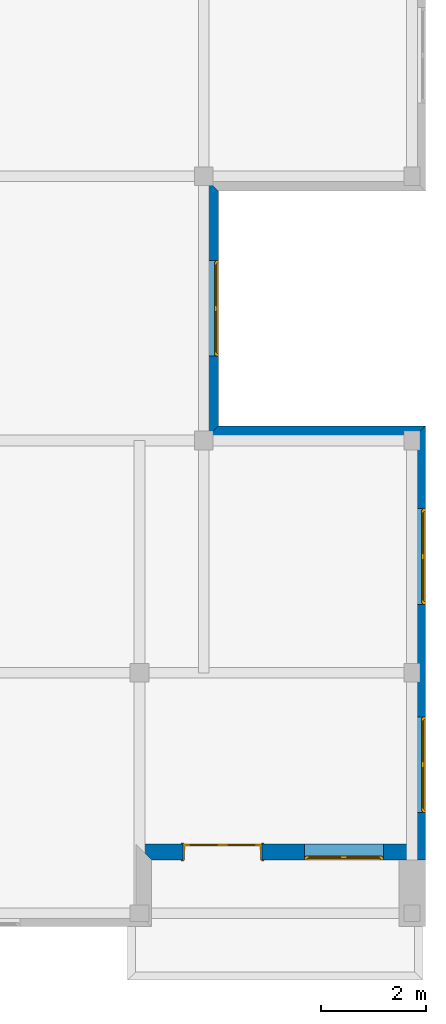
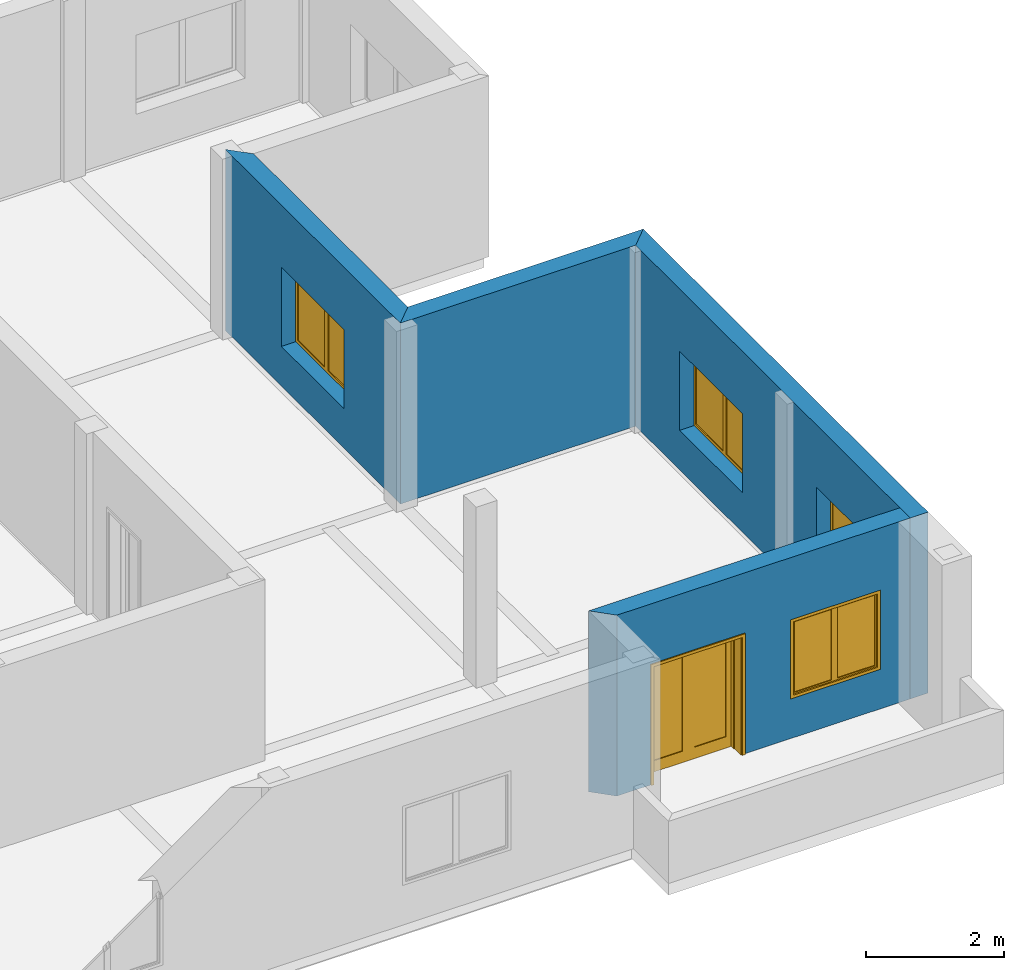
# One storey, part 5 of 6: 4 walls, 4 windows, 1 door, 5 openings.
"""IFC2X3 building model written with IfcOpenShell, lengths in millimetres."""

from ifc_helpers import new_model, entity, si_unit, converted_unit, direction, frame, origin_with_axes, origin_2d_with_axis, place, context, subcontext, project, spatial, polyline, rectangle, outline, extrude, faceted_brep, source, transform, mapped, material, layer, layer_set, layer_usage, type_object, element, fill, save


model = new_model("IFC2X3")

# Units and contexts
model_context = context("Model", 3, precision=1e-05, world=origin_with_axes(), true_north=direction((0.0, 1.0)))
body_context = subcontext(model_context, "Body", "Model", "MODEL_VIEW")
ifc_project = project(units=[si_unit("LENGTHUNIT", "METRE", prefix="MILLI"), si_unit("AREAUNIT", "SQUARE_METRE"), si_unit("VOLUMEUNIT", "CUBIC_METRE"), converted_unit("PLANEANGLEUNIT", "DEGREE", entity("IfcPlaneAngleMeasure", 0.017453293), si_unit("PLANEANGLEUNIT", "RADIAN"), dimensions=[0, 0, 0, 0, 0, 0, 0]), si_unit("SOLIDANGLEUNIT", "STERADIAN"), si_unit("MASSUNIT", "GRAM"), si_unit("TIMEUNIT", "SECOND"), si_unit("THERMODYNAMICTEMPERATUREUNIT", "DEGREE_CELSIUS"), si_unit("LUMINOUSINTENSITYUNIT", "LUMEN")], contexts=[model_context])

# Site, building, storey
site_placement = place(None, origin_with_axes())
site = spatial("IfcSite", under=ifc_project, at=site_placement, Name="Sitio", CompositionType="ELEMENT")
building_placement = place(site_placement, origin_with_axes())
building = spatial("IfcBuilding", under=site, at=building_placement, Name="Ejemplo_StruBIM", CompositionType="ELEMENT")
storey_placement = place(building_placement, frame((0.0, 0.0, 6400.8), z_axis=(0.0, 0.0, 1.0), x_axis=(1.0, 0.0, 0.0)))
storey = spatial("IfcBuildingStorey", under=building, at=storey_placement, Name="Second floor", CompositionType="ELEMENT", Elevation=6400.8)

# Wall
ifc_material_1 = material(Name="Bloque mampostería")
ifc_layer = layer(ifc_material_1, 300.0, ventilated="UNKNOWN")
ifc_layer_set = layer_set([ifc_layer], Name="Bloque mampostería 300")
ifc_layer_usage_1 = layer_usage(ifc_layer_set, "AXIS2", "POSITIVE", 0.0)
wall_type = type_object("IfcWallType", Name="Bloque mampostería 11 3/4\"", PredefinedType="NOTDEFINED")
wall_1_placement = place(storey_placement, frame((22809.2, 9271.0, 0.0), z_axis=(0.0, 0.0, 1.0), x_axis=(-1.0, 0.0, 0.0)))
element("IfcWallStandardCase", 1, at=wall_1_placement, inside=storey, type_object=wall_type, material=ifc_layer_usage_1, Name="Muro-012", context=body_context, shape_type="SweptSolid", body=[
    extrude(outline(polyline([(0.0, 0.0), (3937.0, 0.0), (4237.0, 300.0), (300.0, 300.0), (0.0, 0.0)])), origin_with_axes(), (0.0, 0.0, 1.0), 3200.4),
])

# Wall, opening, window
ifc_layer_usage_2 = layer_usage(ifc_layer_set, "AXIS2", "POSITIVE", 0.0)
wall_2_placement = place(storey_placement, frame((18872.2, 9271.0, 0.0), z_axis=(0.0, 0.0, 1.0), x_axis=(0.0, 1.0, 0.0)))
wall_2 = element("IfcWallStandardCase", 2, at=wall_2_placement, inside=storey, type_object=wall_type, material=ifc_layer_usage_2, Name="Muro-013", context=body_context, shape_type="SweptSolid", body=[
    extrude(outline(polyline([(0.0, 0.0), (4470.4, 0.0), (4770.4, 300.0), (-300.0, 300.0), (0.0, 0.0)])), origin_with_axes(), (0.0, 0.0, 1.0), 3200.4),
])
opening_1_placement = place(wall_2_placement, frame((2235.2, 0.0, 700.0), z_axis=(0.0, 0.0, 1.0), x_axis=(1.0, 0.0, 0.0)))
opening_1 = element("IfcOpeningElement", 3, at=opening_1_placement, cuts=wall_2, Name="V18", context=body_context, shape_type="SweptSolid", body=[
    extrude(rectangle(XDim=1820.0, YDim=1400.0, at=origin_2d_with_axis()), frame((0.0, 300.0, 700.0), z_axis=(0.0, -1.0, 0.0), x_axis=(1.0, 0.0, 0.0)), (0.0, 0.0, 1.0), 300.0),
])
ifc_material_2 = material(Name="Fondo")
window_style = type_object("IfcWindowStyle", Name="Ventana Doble Hoja 16", ConstructionType="NOTDEFINED", OperationType="DOUBLE_PANEL_HORIZONTAL", ParameterTakesPrecedence=False, Sizeable=False)
shared_shape_1 = source(origin_with_axes(), body_context, "Body", "Brep", [
    faceted_brep([(-885.0, -50.0, 1350.0), (-885.0, -25.0, 1350.0), (-860.0, -25.0, 1350.0), (-860.0, 0.0, 1350.0), (-910.0, 0.0, 1350.0), (-910.0, -50.0, 1350.0), (-885.0, -50.0, 50.0), (-885.0, -25.0, 50.0), (-860.0, -25.0, 50.0), (-860.0, 0.0, 50.0), (-910.0, 0.0, 50.0), (-910.0, -50.0, 50.0)], [[[0, 1, 2, 3, 4, 5]], [[1, 0, 6, 7]], [[8, 2, 1, 7]], [[2, 8, 9, 3]], [[4, 3, 9, 10]], [[5, 4, 10, 11]], [[6, 0, 5, 11]], [[7, 6, 11, 10, 9, 8]]]),
    faceted_brep([(860.0, -25.0, 1350.0), (885.0, -25.0, 1350.0), (885.0, -50.0, 1350.0), (910.0, -50.0, 1350.0), (910.0, 0.0, 1350.0), (860.0, 0.0, 1350.0), (860.0, -25.0, 50.0), (885.0, -25.0, 50.0), (885.0, -50.0, 50.0), (910.0, -50.0, 50.0), (910.0, 0.0, 50.0), (860.0, 0.0, 50.0)], [[[0, 1, 2, 3, 4, 5]], [[1, 0, 6, 7]], [[8, 2, 1, 7]], [[2, 8, 9, 3]], [[9, 10, 4, 3]], [[10, 11, 5, 4]], [[6, 0, 5, 11]], [[7, 6, 11, 10, 9, 8]]]),
    faceted_brep([(860.0, -25.0, 50.0), (885.0, -25.0, 50.0), (885.0, -50.0, 50.0), (910.0, -50.0, 50.0), (910.0, 0.0, 50.0), (860.0, 0.0, 50.0), (-860.0, -25.0, 50.0), (-885.0, -25.0, 50.0), (-885.0, -25.0, 25.0), (885.0, -25.0, 25.0), (885.0, -50.0, 25.0), (-885.0, -50.0, 25.0), (-885.0, -50.0, 50.0), (-910.0, -50.0, 50.0), (-910.0, -50.0, 0.0), (910.0, -50.0, 0.0), (910.0, 0.0, 0.0), (-910.0, 0.0, 50.0), (-860.0, 0.0, 50.0), (-910.0, 0.0, 0.0)], [[[0, 1, 2, 3, 4, 5]], [[1, 0, 6, 7, 8, 9]], [[10, 2, 1, 9]], [[11, 12, 13, 14, 15, 3, 2, 10]], [[15, 16, 4, 3]], [[17, 18, 5, 4, 16, 19]], [[6, 0, 5, 18]], [[7, 6, 18, 17, 13, 12]], [[7, 12, 11, 8]], [[11, 10, 9, 8]], [[13, 17, 19, 14]], [[14, 19, 16, 15]]]),
    faceted_brep([(-885.0, -50.0, 1350.0), (-885.0, -50.0, 1375.0), (885.0, -50.0, 1375.0), (885.0, -50.0, 1350.0), (910.0, -50.0, 1350.0), (910.0, -50.0, 1400.0), (-910.0, -50.0, 1400.0), (-910.0, -50.0, 1350.0), (-885.0, -25.0, 1350.0), (-885.0, -25.0, 1375.0), (885.0, -25.0, 1375.0), (885.0, -25.0, 1350.0), (860.0, -25.0, 1350.0), (860.0, 0.0, 1350.0), (910.0, 0.0, 1350.0), (910.0, 0.0, 1400.0), (-910.0, 0.0, 1400.0), (-910.0, 0.0, 1350.0), (-860.0, 0.0, 1350.0), (-860.0, -25.0, 1350.0)], [[[0, 1, 2, 3, 4, 5, 6, 7]], [[1, 0, 8, 9]], [[2, 1, 9, 10]], [[3, 2, 10, 11]], [[11, 12, 13, 14, 4, 3]], [[4, 14, 15, 5]], [[5, 15, 16, 6]], [[6, 16, 17, 7]], [[8, 0, 7, 17, 18, 19]], [[12, 11, 10, 9, 8, 19]], [[12, 19, 18, 13]], [[14, 13, 18, 17, 16, 15]]]),
    faceted_brep([(-835.0, -25.0, 1325.0), (-885.0, -25.0, 1325.0), (-885.0, -75.0, 1325.0), (-835.0, -75.0, 1325.0), (-835.0, -25.0, 75.0), (-885.0, -25.0, 75.0), (-885.0, -75.0, 75.0), (-835.0, -75.0, 75.0)], [[[0, 1, 2, 3]], [[0, 4, 5, 1]], [[1, 5, 6, 2]], [[3, 2, 6, 7]], [[4, 0, 3, 7]], [[5, 4, 7, 6]]]),
    faceted_brep([(-50.0, -25.0, 75.0), (0.0, -25.0, 75.0), (0.0, -75.0, 75.0), (-50.0, -75.0, 75.0), (-50.0, -25.0, 1325.0), (0.0, -25.0, 1325.0), (0.0, -75.0, 1325.0), (-50.0, -75.0, 1325.0)], [[[0, 1, 2, 3]], [[0, 4, 5, 1]], [[1, 5, 6, 2]], [[3, 2, 6, 7]], [[4, 0, 3, 7]], [[5, 4, 7, 6]]]),
    faceted_brep([(0.0, -25.0, 25.0), (0.0, -25.0, 75.0), (0.0, -75.0, 75.0), (0.0, -75.0, 25.0), (-885.0, -25.0, 25.0), (-885.0, -25.0, 75.0), (-835.0, -25.0, 75.0), (-50.0, -25.0, 75.0), (-50.0, -75.0, 75.0), (-835.0, -75.0, 75.0), (-885.0, -75.0, 75.0), (-885.0, -75.0, 25.0)], [[[0, 1, 2, 3]], [[0, 4, 5, 6, 7, 1]], [[1, 7, 8, 2]], [[3, 2, 8, 9, 10, 11]], [[4, 0, 3, 11]], [[5, 4, 11, 10]], [[6, 5, 10, 9]], [[7, 6, 9, 8]]]),
    faceted_brep([(-885.0, -25.0, 1375.0), (-885.0, -25.0, 1325.0), (-885.0, -75.0, 1325.0), (-885.0, -75.0, 1375.0), (0.0, -25.0, 1375.0), (0.0, -25.0, 1325.0), (-50.0, -25.0, 1325.0), (-835.0, -25.0, 1325.0), (-835.0, -75.0, 1325.0), (-50.0, -75.0, 1325.0), (0.0, -75.0, 1325.0), (0.0, -75.0, 1375.0)], [[[0, 1, 2, 3]], [[0, 4, 5, 6, 7, 1]], [[1, 7, 8, 2]], [[3, 2, 8, 9, 10, 11]], [[4, 0, 3, 11]], [[5, 4, 11, 10]], [[6, 5, 10, 9]], [[7, 6, 9, 8]]]),
    faceted_brep([(-835.0, -40.0, 75.0), (-50.0, -40.0, 75.0), (-50.0, -60.0, 75.0), (-835.0, -60.0, 75.0), (-835.0, -40.0, 1325.0), (-50.0, -40.0, 1325.0), (-50.0, -60.0, 1325.0), (-835.0, -60.0, 1325.0)], [[[0, 1, 2, 3]], [[0, 4, 5, 1]], [[1, 5, 6, 2]], [[3, 2, 6, 7]], [[4, 0, 3, 7]], [[5, 4, 7, 6]]]),
    faceted_brep([(50.0, -25.0, 1325.0), (0.0, -25.0, 1325.0), (0.0, -75.0, 1325.0), (50.0, -75.0, 1325.0), (50.0, -25.0, 75.0), (0.0, -25.0, 75.0), (0.0, -75.0, 75.0), (50.0, -75.0, 75.0)], [[[0, 1, 2, 3]], [[0, 4, 5, 1]], [[1, 5, 6, 2]], [[3, 2, 6, 7]], [[4, 0, 3, 7]], [[5, 4, 7, 6]]]),
    faceted_brep([(835.0, -25.0, 75.0), (885.0, -25.0, 75.0), (885.0, -75.0, 75.0), (835.0, -75.0, 75.0), (835.0, -25.0, 1325.0), (885.0, -25.0, 1325.0), (885.0, -75.0, 1325.0), (835.0, -75.0, 1325.0)], [[[0, 1, 2, 3]], [[0, 4, 5, 1]], [[1, 5, 6, 2]], [[3, 2, 6, 7]], [[4, 0, 3, 7]], [[5, 4, 7, 6]]]),
    faceted_brep([(885.0, -25.0, 25.0), (885.0, -25.0, 75.0), (885.0, -75.0, 75.0), (885.0, -75.0, 25.0), (0.0, -25.0, 25.0), (0.0, -25.0, 75.0), (50.0, -25.0, 75.0), (835.0, -25.0, 75.0), (835.0, -75.0, 75.0), (50.0, -75.0, 75.0), (0.0, -75.0, 75.0), (0.0, -75.0, 25.0)], [[[0, 1, 2, 3]], [[0, 4, 5, 6, 7, 1]], [[1, 7, 8, 2]], [[3, 2, 8, 9, 10, 11]], [[4, 0, 3, 11]], [[5, 4, 11, 10]], [[6, 5, 10, 9]], [[7, 6, 9, 8]]]),
    faceted_brep([(0.0, -25.0, 1375.0), (0.0, -25.0, 1325.0), (0.0, -75.0, 1325.0), (0.0, -75.0, 1375.0), (885.0, -25.0, 1375.0), (885.0, -25.0, 1325.0), (835.0, -25.0, 1325.0), (50.0, -25.0, 1325.0), (50.0, -75.0, 1325.0), (835.0, -75.0, 1325.0), (885.0, -75.0, 1325.0), (885.0, -75.0, 1375.0)], [[[0, 1, 2, 3]], [[0, 4, 5, 6, 7, 1]], [[1, 7, 8, 2]], [[3, 2, 8, 9, 10, 11]], [[4, 0, 3, 11]], [[5, 4, 11, 10]], [[6, 5, 10, 9]], [[7, 6, 9, 8]]]),
    faceted_brep([(50.0, -40.0, 75.0), (835.0, -40.0, 75.0), (835.0, -60.0, 75.0), (50.0, -60.0, 75.0), (50.0, -40.0, 1325.0), (835.0, -40.0, 1325.0), (835.0, -60.0, 1325.0), (50.0, -60.0, 1325.0)], [[[0, 1, 2, 3]], [[0, 4, 5, 1]], [[1, 5, 6, 2]], [[3, 2, 6, 7]], [[4, 0, 3, 7]], [[5, 4, 7, 6]]]),
])
window_1_placement = place(opening_1_placement, frame((910.0, 0.0, 0.0), z_axis=(0.0, 0.0, 1.0), x_axis=(-1.0, 0.0, 0.0)))
window_1 = element("IfcWindow", 4, at=window_1_placement, inside=storey, type_object=window_style, material=ifc_material_2, Name="V18", OverallHeight=1400.0, OverallWidth=1820.0, context=body_context, shape_type="MappedRepresentation", body=[
    mapped(shared_shape_1, transform((910.0, 0.0, 0.0))),
])
fill(opening_1, window_1)

# Wall, openings, windows
ifc_layer_usage_3 = layer_usage(ifc_layer_set, "AXIS2", "POSITIVE", 0.0)
wall_3_placement = place(storey_placement, frame((22809.2, 1016.0, 0.0), z_axis=(0.0, 0.0, 1.0), x_axis=(0.0, 1.0, 0.0)))
wall_3 = element("IfcWallStandardCase", 5, at=wall_3_placement, inside=storey, type_object=wall_type, material=ifc_layer_usage_3, Name="Muro-014", context=body_context, shape_type="SweptSolid", body=[
    extrude(outline(polyline([(0.0, 0.0), (8255.0, 0.0), (7955.0, 300.0), (0.0, 300.0), (0.0, 0.0)])), origin_with_axes(), (0.0, 0.0, 1.0), 3200.4),
])
opening_2_placement = place(wall_3_placement, frame((5770.2, 0.0, 700.0), z_axis=(0.0, 0.0, 1.0), x_axis=(1.0, 0.0, 0.0)))
opening_2 = element("IfcOpeningElement", 6, at=opening_2_placement, cuts=wall_3, Name="V14", context=body_context, shape_type="SweptSolid", body=[
    extrude(rectangle(XDim=1820.0, YDim=1400.0, at=origin_2d_with_axis()), frame((0.0, 300.0, 700.0), z_axis=(0.0, -1.0, 0.0), x_axis=(1.0, 0.0, 0.0)), (0.0, 0.0, 1.0), 300.0),
])
opening_3_placement = place(wall_3_placement, frame((1811.7, 0.0, 700.0), z_axis=(0.0, 0.0, 1.0), x_axis=(1.0, 0.0, 0.0)))
opening_3 = element("IfcOpeningElement", 7, at=opening_3_placement, cuts=wall_3, Name="V15", context=body_context, shape_type="SweptSolid", body=[
    extrude(rectangle(XDim=1820.0, YDim=1400.0, at=origin_2d_with_axis()), frame((0.0, 300.0, 700.0), z_axis=(0.0, -1.0, 0.0), x_axis=(1.0, 0.0, 0.0)), (0.0, 0.0, 1.0), 300.0),
])
window_2_placement = place(opening_2_placement, frame((910.0, 0.0, 0.0), z_axis=(0.0, 0.0, 1.0), x_axis=(-1.0, 0.0, 0.0)))
window_2 = element("IfcWindow", 8, at=window_2_placement, inside=storey, type_object=window_style, material=ifc_material_2, Name="V14", OverallHeight=1400.0, OverallWidth=1820.0, context=body_context, shape_type="MappedRepresentation", body=[
    mapped(shared_shape_1, transform((910.0, 0.0, 0.0))),
])
fill(opening_2, window_2)
window_3_placement = place(opening_3_placement, frame((910.0, 0.0, 0.0), z_axis=(0.0, 0.0, 1.0), x_axis=(-1.0, 0.0, 0.0)))
window_3 = element("IfcWindow", 9, at=window_3_placement, inside=storey, type_object=window_style, material=ifc_material_2, Name="V15", OverallHeight=1400.0, OverallWidth=1820.0, context=body_context, shape_type="MappedRepresentation", body=[
    mapped(shared_shape_1, transform((910.0, 0.0, 0.0))),
])
fill(opening_3, window_3)

# Wall, openings, door, window
ifc_layer_usage_4 = layer_usage(ifc_layer_set, "AXIS2", "POSITIVE", 0.0)
wall_4_placement = place(storey_placement, frame((17602.2, 1016.0, 0.0), z_axis=(0.0, 0.0, 1.0), x_axis=(1.0, 0.0, 0.0)))
wall_4 = element("IfcWallStandardCase", 10, at=wall_4_placement, inside=storey, type_object=wall_type, material=ifc_layer_usage_4, Name="Muro-015", context=body_context, shape_type="SweptSolid", body=[
    extrude(outline(polyline([(0.0, 0.0), (4907.0, 0.0), (4907.0, 300.0), (-300.0, 300.0), (0.0, 0.0)])), origin_with_axes(), (0.0, 0.0, 1.0), 3200.4),
])
opening_4_placement = place(wall_4_placement, frame((3657.6, 0.0, 700.0), z_axis=(0.0, 0.0, 1.0), x_axis=(1.0, 0.0, 0.0)))
opening_4 = element("IfcOpeningElement", 11, at=opening_4_placement, cuts=wall_4, Name="V02", context=body_context, shape_type="SweptSolid", body=[
    extrude(rectangle(XDim=1500.0, YDim=1400.0, at=origin_2d_with_axis()), frame((0.0, 300.0, 700.0), z_axis=(0.0, -1.0, 0.0), x_axis=(1.0, 0.0, 0.0)), (0.0, 0.0, 1.0), 300.0),
])
opening_5_placement = place(wall_4_placement, frame((1350.0, 0.0, 0.0), z_axis=(0.0, 0.0, 1.0), x_axis=(1.0, 0.0, 0.0)))
opening_5 = element("IfcOpeningElement", 12, at=opening_5_placement, cuts=wall_4, Name="P05", context=body_context, shape_type="SweptSolid", body=[
    extrude(rectangle(XDim=1500.0, YDim=2100.0, at=origin_2d_with_axis()), frame((0.0, 0.0, 1050.0), z_axis=(0.0, -1.0, 0.0), x_axis=(1.0, 0.0, 0.0)), (0.0, 0.0, -1.0), 300.0),
    extrude(rectangle(XDim=1574.0, YDim=2137.0, at=origin_2d_with_axis()), frame((0.0, 0.0, 1068.5), z_axis=(0.0, -1.0, 0.0), x_axis=(1.0, 0.0, 0.0)), (0.0, 0.0, 1.0), 300.0),
    extrude(rectangle(XDim=1574.0, YDim=2137.0, at=origin_2d_with_axis()), frame((0.0, 300.0, 1068.5), z_axis=(0.0, 1.0, 0.0), x_axis=(1.0, 0.0, 0.0)), (0.0, 0.0, 1.0), 300.0),
])
door_style = type_object("IfcDoorStyle", Name="Puerta Doble 16", ConstructionType="NOTDEFINED", OperationType="SINGLE_SWING_LEFT", ParameterTakesPrecedence=False, Sizeable=False)
shared_shape_2 = source(origin_with_axes(), body_context, "Body", "Brep", [
    faceted_brep([(750.0, -115.0, 0.0), (750.0, -300.0, 0.0), (725.0, -300.0, 0.0), (725.0, -115.0, 0.0), (750.0, -115.0, 2100.0), (750.0, -300.0, 2100.0), (725.0, -300.0, 2075.0), (725.0, -115.0, 2075.0)], [[[0, 1, 2, 3]], [[4, 5, 1, 0]], [[1, 5, 6, 2]], [[3, 2, 6, 7]], [[0, 3, 7, 4]], [[7, 6, 5, 4]]]),
    faceted_brep([(-750.0, -115.0, 2100.0), (-750.0, -300.0, 2100.0), (-725.0, -300.0, 2075.0), (-725.0, -115.0, 2075.0), (-750.0, -115.0, 0.0), (-750.0, -300.0, 0.0), (-725.0, -300.0, 0.0), (-725.0, -115.0, 0.0)], [[[0, 1, 2, 3]], [[4, 5, 1, 0]], [[1, 5, 6, 2]], [[3, 2, 6, 7]], [[0, 3, 7, 4]], [[7, 6, 5, 4]]]),
    faceted_brep([(725.0, -115.0, 2075.0), (725.0, -300.0, 2075.0), (-725.0, -300.0, 2075.0), (-725.0, -115.0, 2075.0), (750.0, -115.0, 2100.0), (750.0, -300.0, 2100.0), (-750.0, -300.0, 2100.0), (-750.0, -115.0, 2100.0)], [[[0, 1, 2, 3]], [[4, 5, 1, 0]], [[1, 5, 6, 2]], [[3, 2, 6, 7]], [[0, 3, 7, 4]], [[7, 6, 5, 4]]]),
    faceted_brep([(787.0, -319.0, 0.0), (737.0, -319.0, 0.0), (737.0, -300.0, 0.0), (787.0, -300.0, 0.0), (787.0, -319.0, 2137.0), (737.0, -319.0, 2087.0), (737.0, -300.0, 2087.0), (787.0, -300.0, 2137.0)], [[[0, 1, 2, 3]], [[0, 4, 5, 1]], [[1, 5, 6, 2]], [[3, 2, 6, 7]], [[4, 0, 3, 7]], [[5, 4, 7, 6]]]),
    faceted_brep([(-787.0, -319.0, 2137.0), (-737.0, -319.0, 2087.0), (-737.0, -300.0, 2087.0), (-787.0, -300.0, 2137.0), (-787.0, -319.0, 0.0), (-737.0, -319.0, 0.0), (-737.0, -300.0, 0.0), (-787.0, -300.0, 0.0)], [[[0, 1, 2, 3]], [[0, 4, 5, 1]], [[1, 5, 6, 2]], [[3, 2, 6, 7]], [[4, 0, 3, 7]], [[5, 4, 7, 6]]]),
    faceted_brep([(787.0, -319.0, 2137.0), (737.0, -319.0, 2087.0), (737.0, -300.0, 2087.0), (787.0, -300.0, 2137.0), (-787.0, -319.0, 2137.0), (-737.0, -319.0, 2087.0), (-737.0, -300.0, 2087.0), (-787.0, -300.0, 2137.0)], [[[0, 1, 2, 3]], [[0, 4, 5, 1]], [[1, 5, 6, 2]], [[3, 2, 6, 7]], [[4, 0, 3, 7]], [[5, 4, 7, 6]]]),
    faceted_brep([(787.0, 19.0, 0.0), (787.0, 0.0, 0.0), (737.0, 0.0, 0.0), (737.0, 19.0, 0.0), (787.0, 19.0, 2137.0), (787.0, 0.0, 2137.0), (737.0, 0.0, 2087.0), (737.0, 19.0, 2087.0)], [[[0, 1, 2, 3]], [[4, 5, 1, 0]], [[1, 5, 6, 2]], [[3, 2, 6, 7]], [[0, 3, 7, 4]], [[7, 6, 5, 4]]]),
    faceted_brep([(-787.0, 19.0, 2137.0), (-787.0, 0.0, 2137.0), (-737.0, 0.0, 2087.0), (-737.0, 19.0, 2087.0), (-787.0, 19.0, 0.0), (-787.0, 0.0, 0.0), (-737.0, 0.0, 0.0), (-737.0, 19.0, 0.0)], [[[0, 1, 2, 3]], [[4, 5, 1, 0]], [[1, 5, 6, 2]], [[3, 2, 6, 7]], [[0, 3, 7, 4]], [[7, 6, 5, 4]]]),
    faceted_brep([(787.0, 19.0, 2137.0), (787.0, 0.0, 2137.0), (737.0, 0.0, 2087.0), (737.0, 19.0, 2087.0), (-787.0, 19.0, 2137.0), (-787.0, 0.0, 2137.0), (-737.0, 0.0, 2087.0), (-737.0, 19.0, 2087.0)], [[[0, 1, 2, 3]], [[4, 5, 1, 0]], [[1, 5, 6, 2]], [[3, 2, 6, 7]], [[0, 3, 7, 4]], [[7, 6, 5, 4]]]),
    faceted_brep([(710.0, -40.0, 0.0), (710.0, -115.0, 0.0), (710.0, -115.0, 2060.0), (710.0, -40.0, 2060.0), (722.0, -40.0, 0.0), (722.0, 2.2351741e-07, 0.0), (750.0, 2.2351741e-07, -3.8951635e-07), (750.0, -115.0, 0.0), (750.0, -115.0, 2060.0), (722.0, -40.0, 2060.0), (750.0, 2.2351741e-07, 2060.0), (722.0, 2.2351741e-07, 2060.0)], [[[0, 1, 2, 3]], [[4, 5, 6, 7, 1, 0]], [[8, 2, 1, 7]], [[9, 3, 2, 8, 10, 11]], [[9, 4, 0, 3]], [[11, 5, 4, 9]], [[11, 10, 6, 5]], [[7, 6, 10, 8]]]),
    faceted_brep([(-722.0, -40.0, 2060.0), (-722.0, 2.2351741e-07, 2060.0), (-750.0, 2.2351741e-07, 2060.0), (-750.0, -115.0, 2060.0), (-710.0, -115.0, 2060.0), (-710.0, -40.0, 2060.0), (-722.0, -40.0, 0.0), (-722.0, 2.2351741e-07, 0.0), (-750.0, 2.2351741e-07, -3.8951635e-07), (-750.0, -115.0, 0.0), (-710.0, -115.0, 0.0), (-710.0, -40.0, 0.0)], [[[0, 1, 2, 3, 4, 5]], [[0, 6, 7, 1]], [[7, 8, 2, 1]], [[3, 2, 8, 9]], [[10, 4, 3, 9]], [[5, 4, 10, 11]], [[5, 11, 6, 0]], [[6, 11, 10, 9, 8, 7]]]),
    faceted_brep([(722.0, 2.2351741e-07, 2072.0), (-722.0, 2.2351741e-07, 2072.0), (-722.0, 2.2351741e-07, 2060.0), (-750.0, 2.2351741e-07, 2060.0), (-750.0, 2.2351741e-07, 2100.0), (750.0, 2.2351741e-07, 2100.0), (750.0, 2.2351741e-07, 2060.0), (722.0, 2.2351741e-07, 2060.0), (722.0, -40.0, 2072.0), (-722.0, -40.0, 2072.0), (-722.0, -40.0, 2060.0), (-710.0, -40.0, 2060.0), (-710.0, -115.0, 2060.0), (-750.0, -115.0, 2060.0), (-750.0, -115.0, 2100.0), (750.0, -115.0, 2100.0), (750.0, -115.0, 2060.0), (722.0, -40.0, 2060.0), (710.0, -115.0, 2060.0), (710.0, -40.0, 2060.0)], [[[0, 1, 2, 3, 4, 5, 6, 7]], [[0, 8, 9, 1]], [[1, 9, 10, 2]], [[10, 11, 12, 13, 3, 2]], [[14, 4, 3, 13]], [[15, 5, 4, 14]], [[16, 6, 5, 15]], [[17, 7, 6, 16, 18, 19]], [[7, 17, 8, 0]], [[10, 9, 8, 17, 19, 11]], [[19, 18, 12, 11]], [[14, 13, 12, 18, 16, 15]]]),
    faceted_brep([(-722.0, 0.0, 200.0), (-622.0, 0.0, 200.0), (-622.0, -40.0, 200.0), (-722.0, -40.0, 200.0), (-722.0, 0.0, 1972.0), (-622.0, 0.0, 1972.0), (-622.0, -40.0, 1972.0), (-722.0, -40.0, 1972.0)], [[[0, 1, 2, 3]], [[0, 4, 5, 1]], [[1, 5, 6, 2]], [[3, 2, 6, 7]], [[4, 0, 3, 7]], [[5, 4, 7, 6]]]),
    faceted_brep([(0.0, 0.0, 200.0), (0.0, 0.0, 1972.0), (0.0, -40.0, 1972.0), (0.0, -40.0, 200.0), (-100.0, 0.0, 200.0), (-100.0, 0.0, 1972.0), (-100.0, -40.0, 1972.0), (-100.0, -40.0, 200.0)], [[[0, 1, 2, 3]], [[0, 4, 5, 1]], [[1, 5, 6, 2]], [[3, 2, 6, 7]], [[4, 0, 3, 7]], [[5, 4, 7, 6]]]),
    faceted_brep([(-722.0, 0.0, 0.0), (0.0, 0.0, 0.0), (0.0, -40.0, 0.0), (-722.0, -40.0, 0.0), (-722.0, 0.0, 200.0), (-622.0, 0.0, 200.0), (-100.0, 0.0, 200.0), (0.0, 0.0, 200.0), (0.0, -40.0, 200.0), (-100.0, -40.0, 200.0), (-622.0, -40.0, 200.0), (-722.0, -40.0, 200.0)], [[[0, 1, 2, 3]], [[0, 4, 5, 6, 7, 1]], [[1, 7, 8, 2]], [[3, 2, 8, 9, 10, 11]], [[4, 0, 3, 11]], [[5, 4, 11, 10]], [[6, 5, 10, 9]], [[7, 6, 9, 8]]]),
    faceted_brep([(-722.0, 0.0, 2072.0), (-722.0, 0.0, 1972.0), (-722.0, -40.0, 1972.0), (-722.0, -40.0, 2072.0), (0.0, 0.0, 2072.0), (0.0, 0.0, 1972.0), (-100.0, 0.0, 1972.0), (-622.0, 0.0, 1972.0), (-622.0, -40.0, 1972.0), (-100.0, -40.0, 1972.0), (0.0, -40.0, 1972.0), (0.0, -40.0, 2072.0)], [[[0, 1, 2, 3]], [[0, 4, 5, 6, 7, 1]], [[1, 7, 8, 2]], [[3, 2, 8, 9, 10, 11]], [[4, 0, 3, 11]], [[5, 4, 11, 10]], [[6, 5, 10, 9]], [[7, 6, 9, 8]]]),
    faceted_brep([(-622.0, -14.0, 200.0), (-100.0, -14.0, 200.0), (-100.0, -26.0, 200.0), (-622.0, -26.0, 200.0), (-622.0, -14.0, 1972.0), (-100.0, -14.0, 1972.0), (-100.0, -26.0, 1972.0), (-622.0, -26.0, 1972.0)], [[[0, 1, 2, 3]], [[0, 4, 5, 1]], [[1, 5, 6, 2]], [[3, 2, 6, 7]], [[4, 0, 3, 7]], [[5, 4, 7, 6]]]),
    faceted_brep([(722.0, 0.0, 200.0), (722.0, -40.0, 200.0), (622.0, -40.0, 200.0), (622.0, 0.0, 200.0), (722.0, 0.0, 1972.0), (722.0, -40.0, 1972.0), (622.0, -40.0, 1972.0), (622.0, 0.0, 1972.0)], [[[0, 1, 2, 3]], [[4, 5, 1, 0]], [[1, 5, 6, 2]], [[3, 2, 6, 7]], [[0, 3, 7, 4]], [[7, 6, 5, 4]]]),
    faceted_brep([(0.0, 0.0, 200.0), (0.0, -40.0, 200.0), (0.0, -40.0, 1972.0), (0.0, 0.0, 1972.0), (100.0, 0.0, 200.0), (100.0, -40.0, 200.0), (100.0, -40.0, 1972.0), (100.0, 0.0, 1972.0)], [[[0, 1, 2, 3]], [[4, 5, 1, 0]], [[1, 5, 6, 2]], [[3, 2, 6, 7]], [[0, 3, 7, 4]], [[7, 6, 5, 4]]]),
    faceted_brep([(722.0, 0.0, 0.0), (722.0, -40.0, 0.0), (0.0, -40.0, 0.0), (0.0, 0.0, 0.0), (722.0, 0.0, 200.0), (722.0, -40.0, 200.0), (622.0, -40.0, 200.0), (100.0, -40.0, 200.0), (0.0, -40.0, 200.0), (0.0, 0.0, 200.0), (100.0, 0.0, 200.0), (622.0, 0.0, 200.0)], [[[0, 1, 2, 3]], [[4, 5, 1, 0]], [[1, 5, 6, 7, 8, 2]], [[3, 2, 8, 9]], [[0, 3, 9, 10, 11, 4]], [[11, 6, 5, 4]], [[10, 7, 6, 11]], [[9, 8, 7, 10]]]),
    faceted_brep([(722.0, 0.0, 2072.0), (722.0, -40.0, 2072.0), (722.0, -40.0, 1972.0), (722.0, 0.0, 1972.0), (0.0, 0.0, 2072.0), (0.0, -40.0, 2072.0), (0.0, -40.0, 1972.0), (100.0, -40.0, 1972.0), (622.0, -40.0, 1972.0), (622.0, 0.0, 1972.0), (100.0, 0.0, 1972.0), (0.0, 0.0, 1972.0)], [[[0, 1, 2, 3]], [[4, 5, 1, 0]], [[1, 5, 6, 7, 8, 2]], [[3, 2, 8, 9]], [[0, 3, 9, 10, 11, 4]], [[11, 6, 5, 4]], [[10, 7, 6, 11]], [[9, 8, 7, 10]]]),
    faceted_brep([(622.0, -14.0, 200.0), (622.0, -26.0, 200.0), (100.0, -26.0, 200.0), (100.0, -14.0, 200.0), (622.0, -14.0, 1972.0), (622.0, -26.0, 1972.0), (100.0, -26.0, 1972.0), (100.0, -14.0, 1972.0)], [[[0, 1, 2, 3]], [[4, 5, 1, 0]], [[1, 5, 6, 2]], [[3, 2, 6, 7]], [[0, 3, 7, 4]], [[7, 6, 5, 4]]]),
])
door_placement = place(opening_5_placement, frame((-750.0, 0.0, 0.0), z_axis=(0.0, 0.0, 1.0), x_axis=(1.0, 0.0, 0.0)))
door = element("IfcDoor", 13, at=door_placement, inside=storey, type_object=door_style, material=ifc_material_2, Name="P05", OverallHeight=2100.0, OverallWidth=1500.0, context=body_context, shape_type="MappedRepresentation", body=[
    mapped(shared_shape_2, transform((750.0, 300.0, 0.0))),
])
fill(opening_5, door)
shared_shape_3 = source(origin_with_axes(), body_context, "Body", "Brep", [
    faceted_brep([(-725.0, -50.0, 1350.0), (-725.0, -25.0, 1350.0), (-700.0, -25.0, 1350.0), (-700.0, 0.0, 1350.0), (-750.0, 0.0, 1350.0), (-750.0, -50.0, 1350.0), (-725.0, -50.0, 50.0), (-725.0, -25.0, 50.0), (-700.0, -25.0, 50.0), (-700.0, 0.0, 50.0), (-750.0, 0.0, 50.0), (-750.0, -50.0, 50.0)], [[[0, 1, 2, 3, 4, 5]], [[1, 0, 6, 7]], [[8, 2, 1, 7]], [[2, 8, 9, 3]], [[4, 3, 9, 10]], [[5, 4, 10, 11]], [[6, 0, 5, 11]], [[7, 6, 11, 10, 9, 8]]]),
    faceted_brep([(700.0, -25.0, 1350.0), (725.0, -25.0, 1350.0), (725.0, -50.0, 1350.0), (750.0, -50.0, 1350.0), (750.0, 0.0, 1350.0), (700.0, 0.0, 1350.0), (700.0, -25.0, 50.0), (725.0, -25.0, 50.0), (725.0, -50.0, 50.0), (750.0, -50.0, 50.0), (750.0, 0.0, 50.0), (700.0, 0.0, 50.0)], [[[0, 1, 2, 3, 4, 5]], [[1, 0, 6, 7]], [[8, 2, 1, 7]], [[2, 8, 9, 3]], [[9, 10, 4, 3]], [[10, 11, 5, 4]], [[6, 0, 5, 11]], [[7, 6, 11, 10, 9, 8]]]),
    faceted_brep([(700.0, -25.0, 50.0), (725.0, -25.0, 50.0), (725.0, -50.0, 50.0), (750.0, -50.0, 50.0), (750.0, 0.0, 50.0), (700.0, 0.0, 50.0), (-700.0, -25.0, 50.0), (-725.0, -25.0, 50.0), (-725.0, -25.0, 25.0), (725.0, -25.0, 25.0), (725.0, -50.0, 25.0), (-725.0, -50.0, 25.0), (-725.0, -50.0, 50.0), (-750.0, -50.0, 50.0), (-750.0, -50.0, 0.0), (750.0, -50.0, 0.0), (750.0, 0.0, 0.0), (-750.0, 0.0, 50.0), (-700.0, 0.0, 50.0), (-750.0, 0.0, 0.0)], [[[0, 1, 2, 3, 4, 5]], [[1, 0, 6, 7, 8, 9]], [[10, 2, 1, 9]], [[11, 12, 13, 14, 15, 3, 2, 10]], [[15, 16, 4, 3]], [[17, 18, 5, 4, 16, 19]], [[6, 0, 5, 18]], [[7, 6, 18, 17, 13, 12]], [[7, 12, 11, 8]], [[11, 10, 9, 8]], [[13, 17, 19, 14]], [[14, 19, 16, 15]]]),
    faceted_brep([(-725.0, -50.0, 1350.0), (-725.0, -50.0, 1375.0), (725.0, -50.0, 1375.0), (725.0, -50.0, 1350.0), (750.0, -50.0, 1350.0), (750.0, -50.0, 1400.0), (-750.0, -50.0, 1400.0), (-750.0, -50.0, 1350.0), (-725.0, -25.0, 1350.0), (-725.0, -25.0, 1375.0), (725.0, -25.0, 1375.0), (725.0, -25.0, 1350.0), (700.0, -25.0, 1350.0), (700.0, 0.0, 1350.0), (750.0, 0.0, 1350.0), (750.0, 0.0, 1400.0), (-750.0, 0.0, 1400.0), (-750.0, 0.0, 1350.0), (-700.0, 0.0, 1350.0), (-700.0, -25.0, 1350.0)], [[[0, 1, 2, 3, 4, 5, 6, 7]], [[1, 0, 8, 9]], [[2, 1, 9, 10]], [[3, 2, 10, 11]], [[11, 12, 13, 14, 4, 3]], [[4, 14, 15, 5]], [[5, 15, 16, 6]], [[6, 16, 17, 7]], [[8, 0, 7, 17, 18, 19]], [[12, 11, 10, 9, 8, 19]], [[12, 19, 18, 13]], [[14, 13, 18, 17, 16, 15]]]),
    faceted_brep([(-675.0, -25.0, 1325.0), (-725.0, -25.0, 1325.0), (-725.0, -75.0, 1325.0), (-675.0, -75.0, 1325.0), (-675.0, -25.0, 75.0), (-725.0, -25.0, 75.0), (-725.0, -75.0, 75.0), (-675.0, -75.0, 75.0)], [[[0, 1, 2, 3]], [[0, 4, 5, 1]], [[1, 5, 6, 2]], [[3, 2, 6, 7]], [[4, 0, 3, 7]], [[5, 4, 7, 6]]]),
    faceted_brep([(-50.0, -25.0, 75.0), (0.0, -25.0, 75.0), (0.0, -75.0, 75.0), (-50.0, -75.0, 75.0), (-50.0, -25.0, 1325.0), (0.0, -25.0, 1325.0), (0.0, -75.0, 1325.0), (-50.0, -75.0, 1325.0)], [[[0, 1, 2, 3]], [[0, 4, 5, 1]], [[1, 5, 6, 2]], [[3, 2, 6, 7]], [[4, 0, 3, 7]], [[5, 4, 7, 6]]]),
    faceted_brep([(0.0, -25.0, 25.0), (0.0, -25.0, 75.0), (0.0, -75.0, 75.0), (0.0, -75.0, 25.0), (-725.0, -25.0, 25.0), (-725.0, -25.0, 75.0), (-675.0, -25.0, 75.0), (-50.0, -25.0, 75.0), (-50.0, -75.0, 75.0), (-675.0, -75.0, 75.0), (-725.0, -75.0, 75.0), (-725.0, -75.0, 25.0)], [[[0, 1, 2, 3]], [[0, 4, 5, 6, 7, 1]], [[1, 7, 8, 2]], [[3, 2, 8, 9, 10, 11]], [[4, 0, 3, 11]], [[5, 4, 11, 10]], [[6, 5, 10, 9]], [[7, 6, 9, 8]]]),
    faceted_brep([(-725.0, -25.0, 1375.0), (-725.0, -25.0, 1325.0), (-725.0, -75.0, 1325.0), (-725.0, -75.0, 1375.0), (0.0, -25.0, 1375.0), (0.0, -25.0, 1325.0), (-50.0, -25.0, 1325.0), (-675.0, -25.0, 1325.0), (-675.0, -75.0, 1325.0), (-50.0, -75.0, 1325.0), (0.0, -75.0, 1325.0), (0.0, -75.0, 1375.0)], [[[0, 1, 2, 3]], [[0, 4, 5, 6, 7, 1]], [[1, 7, 8, 2]], [[3, 2, 8, 9, 10, 11]], [[4, 0, 3, 11]], [[5, 4, 11, 10]], [[6, 5, 10, 9]], [[7, 6, 9, 8]]]),
    faceted_brep([(-675.0, -40.0, 75.0), (-50.0, -40.0, 75.0), (-50.0, -60.0, 75.0), (-675.0, -60.0, 75.0), (-675.0, -40.0, 1325.0), (-50.0, -40.0, 1325.0), (-50.0, -60.0, 1325.0), (-675.0, -60.0, 1325.0)], [[[0, 1, 2, 3]], [[0, 4, 5, 1]], [[1, 5, 6, 2]], [[3, 2, 6, 7]], [[4, 0, 3, 7]], [[5, 4, 7, 6]]]),
    faceted_brep([(50.0, -25.0, 1325.0), (0.0, -25.0, 1325.0), (0.0, -75.0, 1325.0), (50.0, -75.0, 1325.0), (50.0, -25.0, 75.0), (0.0, -25.0, 75.0), (0.0, -75.0, 75.0), (50.0, -75.0, 75.0)], [[[0, 1, 2, 3]], [[0, 4, 5, 1]], [[1, 5, 6, 2]], [[3, 2, 6, 7]], [[4, 0, 3, 7]], [[5, 4, 7, 6]]]),
    faceted_brep([(675.0, -25.0, 75.0), (725.0, -25.0, 75.0), (725.0, -75.0, 75.0), (675.0, -75.0, 75.0), (675.0, -25.0, 1325.0), (725.0, -25.0, 1325.0), (725.0, -75.0, 1325.0), (675.0, -75.0, 1325.0)], [[[0, 1, 2, 3]], [[0, 4, 5, 1]], [[1, 5, 6, 2]], [[3, 2, 6, 7]], [[4, 0, 3, 7]], [[5, 4, 7, 6]]]),
    faceted_brep([(725.0, -25.0, 25.0), (725.0, -25.0, 75.0), (725.0, -75.0, 75.0), (725.0, -75.0, 25.0), (0.0, -25.0, 25.0), (0.0, -25.0, 75.0), (50.0, -25.0, 75.0), (675.0, -25.0, 75.0), (675.0, -75.0, 75.0), (50.0, -75.0, 75.0), (0.0, -75.0, 75.0), (0.0, -75.0, 25.0)], [[[0, 1, 2, 3]], [[0, 4, 5, 6, 7, 1]], [[1, 7, 8, 2]], [[3, 2, 8, 9, 10, 11]], [[4, 0, 3, 11]], [[5, 4, 11, 10]], [[6, 5, 10, 9]], [[7, 6, 9, 8]]]),
    faceted_brep([(0.0, -25.0, 1375.0), (0.0, -25.0, 1325.0), (0.0, -75.0, 1325.0), (0.0, -75.0, 1375.0), (725.0, -25.0, 1375.0), (725.0, -25.0, 1325.0), (675.0, -25.0, 1325.0), (50.0, -25.0, 1325.0), (50.0, -75.0, 1325.0), (675.0, -75.0, 1325.0), (725.0, -75.0, 1325.0), (725.0, -75.0, 1375.0)], [[[0, 1, 2, 3]], [[0, 4, 5, 6, 7, 1]], [[1, 7, 8, 2]], [[3, 2, 8, 9, 10, 11]], [[4, 0, 3, 11]], [[5, 4, 11, 10]], [[6, 5, 10, 9]], [[7, 6, 9, 8]]]),
    faceted_brep([(50.0, -40.0, 75.0), (675.0, -40.0, 75.0), (675.0, -60.0, 75.0), (50.0, -60.0, 75.0), (50.0, -40.0, 1325.0), (675.0, -40.0, 1325.0), (675.0, -60.0, 1325.0), (50.0, -60.0, 1325.0)], [[[0, 1, 2, 3]], [[0, 4, 5, 1]], [[1, 5, 6, 2]], [[3, 2, 6, 7]], [[4, 0, 3, 7]], [[5, 4, 7, 6]]]),
])
window_4_placement = place(opening_4_placement, frame((750.0, 0.0, 0.0), z_axis=(0.0, 0.0, 1.0), x_axis=(-1.0, 0.0, 0.0)))
window_4 = element("IfcWindow", 14, at=window_4_placement, inside=storey, type_object=window_style, material=ifc_material_2, Name="V02", OverallHeight=1400.0, OverallWidth=1500.0, context=body_context, shape_type="MappedRepresentation", body=[
    mapped(shared_shape_3, transform((750.0, 0.0, 0.0))),
])
fill(opening_4, window_4)

save(model, "model.ifc")
